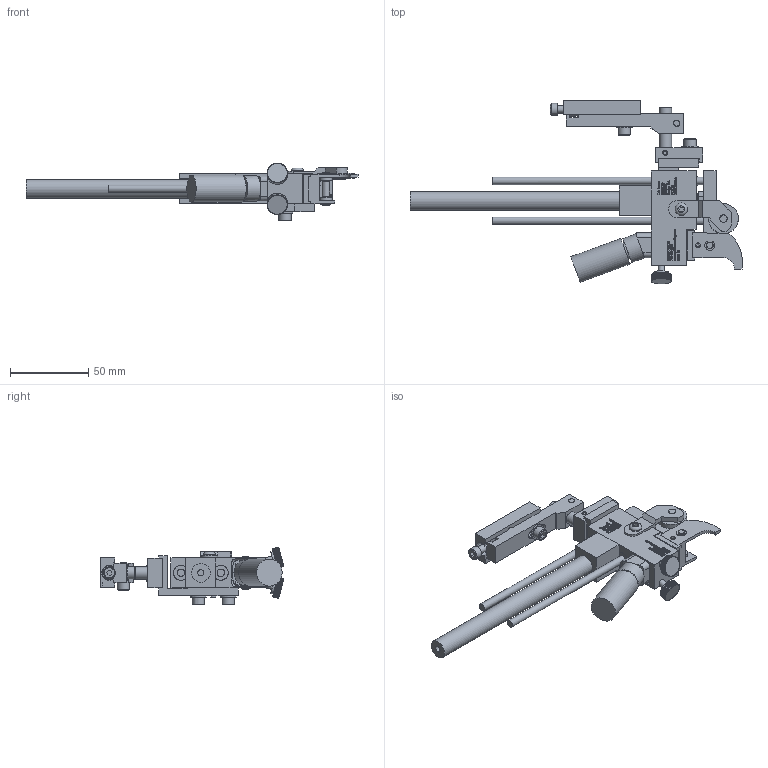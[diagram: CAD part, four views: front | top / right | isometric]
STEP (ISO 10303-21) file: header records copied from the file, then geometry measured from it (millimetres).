
FILE_DESCRIPTION((''),'2;1');
FILE_NAME('C:\Documents and Settings\Ron\My Documents\Inventor\Sprinter Drawing\Machines in Inventor\Model 44\Dot\1-eight\Ext Str\E2\Brkt\Ret\Model 44 E2 .125 Dia Dot Ret w brkt.stp','2009-01-22T14:54:09',('Ron'),(''),'Autodesk Inventor 2008','Autodesk Inventor 2008','');
FILE_SCHEMA(('AUTOMOTIVE_DESIGN { 1 0 10303 214 1 1 1 1 }'));
Length unit declared in the file: inch
Products named in the file (1): Model 44 E2 .125 Dia Dot Ret w brkt
Bounding box: 211.8 x 117.12 x 36.82 mm (x, y, z)
Volume: 110882.6 mm3; surface area: 53898.4 mm2
Topology: 381 solids, 381 shells, 6205 faces, 15421 edges, 9539 vertices
Faces by surface type: plane 4365, bspline 1317, cylinder 470, cone 48, torus 5
Full cylindrical faces by diameter (mm): 3.175 x5, 3.302 x1, 3.962 x1, 4.064 x7, 4.166 x1, 4.699 x1, 4.75 x4, 4.775 x1, 4.826 x8, 5.144 x1, 5.156 x5, 5.207 x2, 5.41 x2, 6.096 x1, 6.274 x2, 7.239 x1, 7.62 x1, 7.925 x7, 7.938 x1, 8.128 x1, 9.017 x1, 9.525 x2, 10.312 x4, 10.922 x1, 11.036 x1, 11.938 x2, 14.478 x1, 16.256 x1, 17.272 x1, 19.05 x1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
Entity records: 197762 total; most frequent: CARTESIAN_POINT 54104, ORIENTED_EDGE 30400, DIRECTION 23629, EDGE_CURVE 15200, VECTOR 11403, LINE 11403, VERTEX_POINT 9475, EDGE_LOOP 6767
